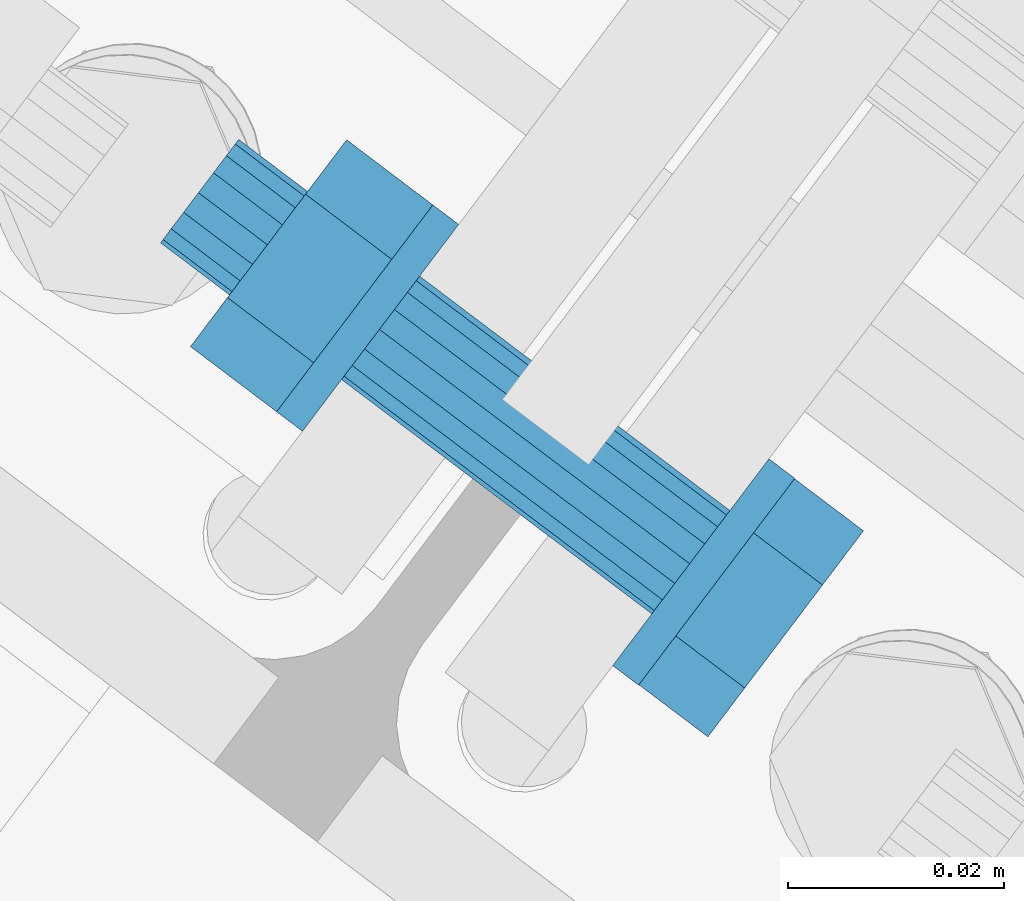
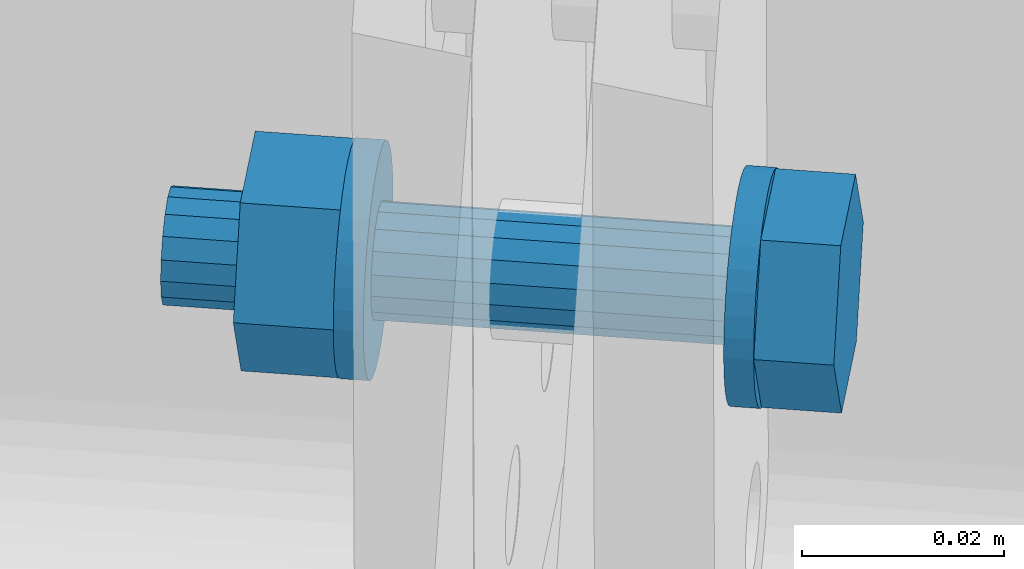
# One storey, part 391 of 476: 1 mechanical fastener.
"""IFC2X3 building model written with IfcOpenShell, lengths in millimetres."""

from ifc_helpers import new_model, entity, si_unit, converted_unit, origin_with_axes, place, context, project, spatial, faceted_brep, element, save


model = new_model("IFC2X3")

# Units and contexts
model_context = context("Model", 3, precision=1e-09, world=origin_with_axes())
ifc_project = project(units=[si_unit("LENGTHUNIT", "METRE", prefix="MILLI"), si_unit("AREAUNIT", "SQUARE_METRE"), si_unit("VOLUMEUNIT", "CUBIC_METRE"), converted_unit("PLANEANGLEUNIT", "DEGREE", entity("IfcPlaneAngleMeasure", 0.01745329), si_unit("PLANEANGLEUNIT", "RADIAN"), dimensions=[0, 0, 0, 0, 0, 0, 0])], contexts=[model_context])

# Site, building, storey
site_placement = place(None, origin_with_axes())
site = spatial("IfcSite", under=ifc_project, at=site_placement, Name="mKR Teilneubau & Sanierung BA1 - Ostfildern", CompositionType="ELEMENT")
building_placement = place(site_placement, origin_with_axes())
building = spatial("IfcBuilding", under=site, at=building_placement, Name="Struktur 1", CompositionType="ELEMENT")
storey_placement = place(building_placement, origin_with_axes())
storey = spatial("IfcBuildingStorey", under=building, at=storey_placement, Name="Default Storey", CompositionType="ELEMENT", Elevation=0.0)

# Mechanical fastener
mechanical_fastener_placement = place(None, origin_with_axes())
element("IfcMechanicalFastener", 1, at=mechanical_fastener_placement, inside=storey, ObjectType="Bolt#2", NominalDiameter=12.0, NominalLength=60.0, context=model_context, shape_type="Brep", body=[
    faceted_brep([(13831.199555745, 7035.385896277, 5559.241539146), (13828.805730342, 7037.19409979, 5559.241539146), (13830.211970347, 7039.055777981, 5559.542342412), (13832.605795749, 7037.247574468, 5559.542342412), (13831.55581909, 7040.834858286, 5560.292531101), (13833.949644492, 7039.026654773, 5560.292531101), (13832.785633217, 7042.462971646, 5561.463275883), (13835.179458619, 7040.654768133, 5561.463275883), (13833.854151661, 7043.877550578, 5563.009585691), (13836.247977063, 7042.069347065, 5563.009585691), (13834.720311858, 7045.024233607, 5564.872036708), (13837.11413726, 7043.216030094, 5564.872036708), (13835.350827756, 7045.858954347, 5566.979055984), (13837.744653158, 7044.050750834, 5566.979055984), (13835.721468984, 7046.349634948, 5569.249671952), (13838.115294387, 7044.541431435, 5569.249671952), (13835.817992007, 7046.47741883, 5571.596626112), (13838.21181741, 7044.669215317, 5571.596626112), (13835.6366875, 7046.23739533, 5573.929726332), (13838.030512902, 7044.429191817, 5573.929726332), (13835.184522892, 7045.638788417, 5576.15931288), (13837.578348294, 7043.830584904, 5576.15931288), (13834.478874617, 7044.704602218, 5578.199703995), (13836.872700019, 7042.896398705, 5578.199703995), (13833.546860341, 7043.470736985, 5579.97248859), (13835.940685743, 7041.662533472, 5579.97248859), (13832.424296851, 7041.984609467, 5581.409539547), (13834.818122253, 7040.176405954, 5581.409539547), (13831.154323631, 7040.303330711, 5582.455631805), (13833.548149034, 7038.495127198, 5582.455631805), (13829.785745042, 7038.491511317, 5583.070564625), (13832.179570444, 7036.683307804, 5583.070564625), (13828.37115479, 7036.618778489, 5583.230706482), (13830.764980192, 7034.810574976, 5583.230706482), (13826.964914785, 7034.757100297, 5582.929903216), (13829.358740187, 7032.948896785, 5582.929903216), (13825.621066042, 7032.978019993, 5582.179714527), (13828.014891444, 7031.16981648, 5582.179714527), (13824.391251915, 7031.349906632, 5581.008969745), (13826.785077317, 7029.54170312, 5581.008969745), (13823.322733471, 7029.9353277, 5579.462659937), (13825.716558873, 7028.127124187, 5579.462659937), (13822.456573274, 7028.788644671, 5577.60020892), (13824.850398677, 7026.980441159, 5577.60020892), (13821.826057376, 7027.953923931, 5575.493189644), (13824.219882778, 7026.145720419, 5575.493189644), (13821.455416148, 7027.46324333, 5573.222573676), (13823.84924155, 7025.655039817, 5573.222573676), (13821.358893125, 7027.335459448, 5570.875619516), (13823.752718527, 7025.527255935, 5570.875619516), (13821.540197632, 7027.575482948, 5568.542519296), (13823.934023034, 7025.767279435, 5568.542519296), (13821.99236224, 7028.174089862, 5566.312932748), (13824.386187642, 7026.365886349, 5566.312932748), (13822.698010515, 7029.108276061, 5564.272541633), (13825.091835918, 7027.300072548, 5564.272541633), (13823.630024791, 7030.342141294, 5562.499757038), (13826.023850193, 7028.533937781, 5562.499757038), (13824.752588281, 7031.828268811, 5561.062706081), (13827.146413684, 7030.020065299, 5561.062706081), (13826.022561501, 7033.509547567, 5560.016613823), (13828.416386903, 7031.701344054, 5560.016613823), (13827.39114009, 7035.321366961, 5559.401681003), (13829.784965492, 7033.513163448, 5559.401681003)], [[[0, 1, 2, 3]], [[3, 2, 4, 5]], [[5, 4, 6, 7]], [[7, 6, 8, 9]], [[9, 8, 10, 11]], [[11, 10, 12, 13]], [[13, 12, 14, 15]], [[15, 14, 16, 17]], [[17, 16, 18, 19]], [[19, 18, 20, 21]], [[21, 20, 22, 23]], [[23, 22, 24, 25]], [[25, 24, 26, 27]], [[27, 26, 28, 29]], [[29, 28, 30, 31]], [[31, 30, 32, 33]], [[33, 32, 34, 35]], [[35, 34, 36, 37]], [[37, 36, 38, 39]], [[39, 38, 40, 41]], [[41, 40, 42, 43]], [[43, 42, 44, 45]], [[45, 44, 46, 47]], [[47, 46, 48, 49]], [[49, 48, 50, 51]], [[51, 50, 52, 53]], [[53, 52, 54, 55]], [[55, 54, 56, 57]], [[57, 56, 58, 59]], [[59, 58, 60, 61]], [[61, 60, 62, 63]], [[63, 62, 1, 0]], [[0, 3, 5, 7, 9, 11, 13, 15, 17, 19, 21, 23, 25, 27, 29, 31, 33, 35, 37, 39, 41, 43, 45, 47, 49, 51, 53, 55, 57, 59, 61, 63]], [[1, 62, 60, 58, 56, 54, 52, 50, 48, 46, 44, 42, 40, 38, 36, 34, 32, 30, 28, 26, 24, 22, 20, 18, 16, 14, 12, 10, 8, 6, 4, 2]]]),
    faceted_brep([(13834.396016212, 7039.617592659, 5581.76435913), (13840.779550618, 7034.795716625, 5581.76435913), (13844.568241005, 7039.811448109, 5571.595274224), (13838.184706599, 7044.633324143, 5571.595274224), (13841.154492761, 7035.292091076, 5561.067037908), (13834.770958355, 7040.11396711, 5561.067037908), (13833.95205413, 7025.757002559, 5560.707886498), (13827.568519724, 7030.578878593, 5560.707886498), (13830.163363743, 7020.741271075, 5570.876971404), (13823.779829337, 7025.563147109, 5570.876971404), (13833.577111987, 7025.260628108, 5581.40520772), (13827.193577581, 7030.082504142, 5581.40520772)], [[[0, 1, 2, 3]], [[3, 2, 4, 5]], [[5, 4, 6, 7]], [[7, 6, 8, 9]], [[9, 8, 10, 11]], [[11, 10, 1, 0]], [[4, 2, 1, 10, 8, 6]], [[0, 3, 5, 7, 9, 11]]]),
    faceted_brep([(13828.697086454, 7037.050269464, 5565.23883098), (13799.971181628, 7058.748711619, 5565.23883098), (13801.346226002, 7060.569090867, 5565.764326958), (13830.072130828, 7038.870648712, 5565.764326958), (13802.495392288, 7062.090437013, 5567.122854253), (13831.221297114, 7040.391994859, 5567.122854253), (13803.243730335, 7063.081138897, 5569.107589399), (13831.969635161, 7041.382696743, 5569.107589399), (13803.477312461, 7063.390371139, 5571.416374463), (13832.203217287, 7041.691928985, 5571.416374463), (13803.160577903, 7062.971055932, 5573.697717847), (13831.886482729, 7041.272613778, 5573.697717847), (13802.341746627, 7061.887030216, 5575.604305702), (13831.067651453, 7040.188588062, 5575.604305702), (13801.145478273, 7060.30332708, 5576.84587731), (13829.871383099, 7038.604884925, 5576.84587731), (13799.753893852, 7058.461050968, 5577.233414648), (13828.479798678, 7036.762608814, 5577.233414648), (13798.378849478, 7056.64067172, 5576.70791867), (13827.104754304, 7034.942229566, 5576.70791867), (13797.229683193, 7055.119325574, 5575.349391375), (13825.955588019, 7033.42088342, 5575.349391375), (13796.481345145, 7054.12862369, 5573.364656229), (13825.207249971, 7032.430181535, 5573.364656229), (13796.247763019, 7053.819391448, 5571.055871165), (13824.973667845, 7032.120949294, 5571.055871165), (13796.564497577, 7054.238706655, 5568.774527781), (13825.290402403, 7032.5402645, 5568.774527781), (13797.383328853, 7055.322732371, 5566.867939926), (13826.109233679, 7033.624290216, 5566.867939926), (13798.579597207, 7056.906435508, 5565.626368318), (13827.305502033, 7035.207993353, 5565.626368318)], [[[0, 1, 2, 3]], [[3, 2, 4, 5]], [[5, 4, 6, 7]], [[7, 6, 8, 9]], [[9, 8, 10, 11]], [[11, 10, 12, 13]], [[13, 12, 14, 15]], [[15, 14, 16, 17]], [[17, 16, 18, 19]], [[19, 18, 20, 21]], [[21, 20, 22, 23]], [[23, 22, 24, 25]], [[25, 24, 26, 27]], [[27, 26, 28, 29]], [[29, 28, 30, 31]], [[31, 30, 1, 0]], [[0, 3, 5, 7, 9, 11, 13, 15, 17, 19, 21, 23, 25, 27, 29, 31]], [[1, 30, 28, 26, 24, 22, 20, 18, 16, 14, 12, 10, 8, 6, 4, 2]]]),
    faceted_brep([(13800.079825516, 7058.892541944, 5559.241539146), (13797.686000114, 7060.700745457, 5559.241539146), (13799.092240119, 7062.562423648, 5559.542342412), (13801.486065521, 7060.754220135, 5559.542342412), (13800.436088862, 7064.341503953, 5560.292531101), (13802.829914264, 7062.53330044, 5560.292531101), (13801.665902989, 7065.969617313, 5561.463275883), (13804.059728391, 7064.1614138, 5561.463275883), (13802.734421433, 7067.384196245, 5563.009585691), (13805.128246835, 7065.575992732, 5563.009585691), (13803.60058163, 7068.530879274, 5564.872036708), (13805.994407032, 7066.722675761, 5564.872036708), (13804.231097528, 7069.365600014, 5566.979055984), (13806.62492293, 7067.557396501, 5566.979055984), (13804.601738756, 7069.856280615, 5569.249671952), (13806.995564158, 7068.048077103, 5569.249671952), (13804.698261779, 7069.984064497, 5571.596626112), (13807.092087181, 7068.175860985, 5571.596626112), (13804.516957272, 7069.744040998, 5573.929726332), (13806.910782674, 7067.935837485, 5573.929726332), (13804.064792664, 7069.145434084, 5576.15931288), (13806.458618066, 7067.337230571, 5576.15931288), (13803.359144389, 7068.211247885, 5578.199703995), (13805.752969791, 7066.403044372, 5578.199703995), (13802.427130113, 7066.977382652, 5579.97248859), (13804.820955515, 7065.169179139, 5579.97248859), (13801.304566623, 7065.491255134, 5581.409539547), (13803.698392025, 7063.683051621, 5581.409539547), (13800.034593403, 7063.809976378, 5582.455631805), (13802.428418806, 7062.001772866, 5582.455631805), (13798.666014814, 7061.998156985, 5583.070564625), (13801.059840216, 7060.189953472, 5583.070564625), (13797.251424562, 7060.125424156, 5583.230706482), (13799.645249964, 7058.317220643, 5583.230706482), (13795.845184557, 7058.263745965, 5582.929903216), (13798.239009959, 7056.455542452, 5582.929903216), (13794.501335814, 7056.48466566, 5582.179714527), (13796.895161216, 7054.676462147, 5582.179714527), (13793.271521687, 7054.8565523, 5581.008969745), (13795.665347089, 7053.048348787, 5581.008969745), (13792.203003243, 7053.441973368, 5579.462659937), (13794.596828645, 7051.633769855, 5579.462659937), (13791.336843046, 7052.295290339, 5577.60020892), (13793.730668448, 7050.487086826, 5577.60020892), (13790.706327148, 7051.460569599, 5575.493189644), (13793.10015255, 7049.652366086, 5575.493189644), (13790.33568592, 7050.969888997, 5573.222573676), (13792.729511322, 7049.161685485, 5573.222573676), (13790.239162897, 7050.842105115, 5570.875619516), (13792.632988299, 7049.033901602, 5570.875619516), (13790.420467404, 7051.082128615, 5568.542519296), (13792.814292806, 7049.273925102, 5568.542519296), (13790.872632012, 7051.680735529, 5566.312932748), (13793.266457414, 7049.872532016, 5566.312932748), (13791.578280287, 7052.614921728, 5564.272541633), (13793.97210569, 7050.806718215, 5564.272541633), (13792.510294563, 7053.848786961, 5562.499757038), (13794.904119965, 7052.040583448, 5562.499757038), (13793.632858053, 7055.334914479, 5561.062706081), (13796.026683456, 7053.526710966, 5561.062706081), (13794.902831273, 7057.016193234, 5560.016613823), (13797.296656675, 7055.207989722, 5560.016613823), (13796.271409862, 7058.828012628, 5559.401681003), (13798.665235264, 7057.019809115, 5559.401681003)], [[[0, 1, 2, 3]], [[3, 2, 4, 5]], [[5, 4, 6, 7]], [[7, 6, 8, 9]], [[9, 8, 10, 11]], [[11, 10, 12, 13]], [[13, 12, 14, 15]], [[15, 14, 16, 17]], [[17, 16, 18, 19]], [[19, 18, 20, 21]], [[21, 20, 22, 23]], [[23, 22, 24, 25]], [[25, 24, 26, 27]], [[27, 26, 28, 29]], [[29, 28, 30, 31]], [[31, 30, 32, 33]], [[33, 32, 34, 35]], [[35, 34, 36, 37]], [[37, 36, 38, 39]], [[39, 38, 40, 41]], [[41, 40, 42, 43]], [[43, 42, 44, 45]], [[45, 44, 46, 47]], [[47, 46, 48, 49]], [[49, 48, 50, 51]], [[51, 50, 52, 53]], [[53, 52, 54, 55]], [[55, 54, 56, 57]], [[57, 56, 58, 59]], [[59, 58, 60, 61]], [[61, 60, 62, 63]], [[63, 62, 1, 0]], [[0, 3, 5, 7, 9, 11, 13, 15, 17, 19, 21, 23, 25, 27, 29, 31, 33, 35, 37, 39, 41, 43, 45, 47, 49, 51, 53, 55, 57, 59, 61, 63]], [[1, 62, 60, 58, 56, 54, 52, 50, 48, 46, 44, 42, 40, 38, 36, 34, 32, 30, 28, 26, 24, 22, 20, 18, 16, 14, 12, 10, 8, 6, 4, 2]]]),
    faceted_brep([(13792.915892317, 7070.976798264, 5581.803988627), (13800.895310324, 7064.949453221, 5581.803988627), (13804.698261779, 7069.984064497, 5571.596626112), (13796.718843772, 7076.01140954, 5571.596626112), (13801.271663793, 7065.447696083, 5561.028760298), (13793.292245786, 7071.475041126, 5561.028760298), (13794.042114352, 7055.876716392, 5560.668257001), (13786.062696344, 7061.904061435, 5560.668257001), (13790.239162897, 7050.842105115, 5570.875619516), (13782.259744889, 7056.869450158, 5570.875619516), (13793.665760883, 7055.37847353, 5581.44348533), (13785.686342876, 7061.405818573, 5581.44348533)], [[[0, 1, 2, 3]], [[3, 2, 4, 5]], [[5, 4, 6, 7]], [[7, 6, 8, 9]], [[9, 8, 10, 11]], [[11, 10, 1, 0]], [[4, 2, 1, 10, 8, 6]], [[0, 3, 5, 7, 9, 11]]]),
    faceted_brep([(13789.597938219, 7066.584260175, 5565.23883098), (13783.214403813, 7071.406136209, 5565.23883098), (13784.589448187, 7073.226515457, 5565.764326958), (13790.972982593, 7068.404639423, 5565.764326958), (13785.738614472, 7074.747861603, 5567.122854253), (13792.122148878, 7069.925985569, 5567.122854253), (13786.48695252, 7075.738563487, 5569.107589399), (13792.870486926, 7070.916687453, 5569.107589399), (13786.720534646, 7076.047795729, 5571.416374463), (13793.104069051, 7071.225919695, 5571.416374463), (13786.403800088, 7075.628480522, 5573.697717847), (13792.787334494, 7070.806604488, 5573.697717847), (13785.584968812, 7074.544454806, 5575.604305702), (13791.968503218, 7069.722578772, 5575.604305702), (13784.388700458, 7072.96075167, 5576.84587731), (13790.772234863, 7068.138875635, 5576.84587731), (13782.997116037, 7071.118475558, 5577.233414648), (13789.380650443, 7066.296599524, 5577.233414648), (13781.622071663, 7069.29809631, 5576.70791867), (13788.005606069, 7064.476220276, 5576.70791867), (13780.472905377, 7067.776750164, 5575.349391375), (13786.856439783, 7062.95487413, 5575.349391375), (13779.72456733, 7066.78604828, 5573.364656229), (13786.108101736, 7061.964172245, 5573.364656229), (13779.490985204, 7066.476816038, 5571.055871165), (13785.87451961, 7061.654940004, 5571.055871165), (13779.807719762, 7066.896131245, 5568.774527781), (13786.191254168, 7062.074255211, 5568.774527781), (13780.626551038, 7067.980156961, 5566.867939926), (13787.010085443, 7063.158280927, 5566.867939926), (13781.822819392, 7069.563860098, 5565.626368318), (13788.206353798, 7064.741984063, 5565.626368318)], [[[0, 1, 2, 3]], [[3, 2, 4, 5]], [[5, 4, 6, 7]], [[7, 6, 8, 9]], [[9, 8, 10, 11]], [[11, 10, 12, 13]], [[13, 12, 14, 15]], [[15, 14, 16, 17]], [[17, 16, 18, 19]], [[19, 18, 20, 21]], [[21, 20, 22, 23]], [[23, 22, 24, 25]], [[25, 24, 26, 27]], [[27, 26, 28, 29]], [[29, 28, 30, 31]], [[31, 30, 1, 0]], [[0, 3, 5, 7, 9, 11, 13, 15, 17, 19, 21, 23, 25, 27, 29, 31]], [[1, 30, 28, 26, 24, 22, 20, 18, 16, 14, 12, 10, 8, 6, 4, 2]]]),
])

save(model, "model.ifc")
